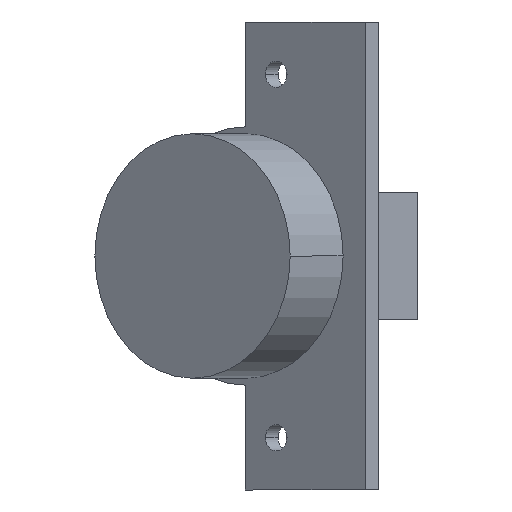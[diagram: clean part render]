
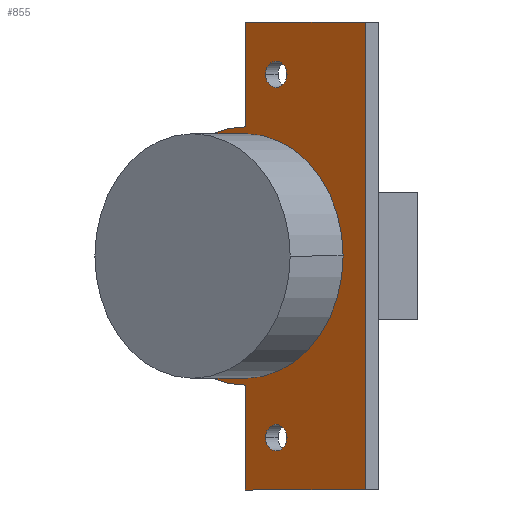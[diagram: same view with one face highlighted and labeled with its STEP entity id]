
A CAD part, front view. The second image highlights one B-rep face of the part: STEP entity #855.
In plain terms, the highlighted planar face has unit normal (-0.602, -0.799, 0).
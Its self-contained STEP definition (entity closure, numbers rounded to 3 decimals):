
#131 = CARTESIAN_POINT ( 'NONE',  ( 5.642, -3.31, 26. ) ) ;
#132 = DIRECTION ( 'NONE',  ( 0.602, 0.799, 0. ) ) ;
#133 = DIRECTION ( 'NONE',  ( -0.799, 0.602, 0. ) ) ;
#137 = CARTESIAN_POINT ( 'NONE',  ( 5.642, -3.31, -26. ) ) ;
#143 = DIRECTION ( 'NONE',  ( 0.602, 0.799, 0. ) ) ;
#144 = DIRECTION ( 'NONE',  ( -0.799, 0.602, 0. ) ) ;
#145 = CARTESIAN_POINT ( 'NONE',  ( 1.25, 0., 0. ) ) ;
#146 = DIRECTION ( 'NONE',  ( -0.602, -0.799, 0. ) ) ;
#147 = DIRECTION ( 'NONE',  ( -0.799, 0.602, 0. ) ) ;
#198 = CARTESIAN_POINT ( 'NONE',  ( 1.25, 0., 33.5 ) ) ;
#206 = DIRECTION ( 'NONE',  ( 0.799, -0.602, 0. ) ) ;
#220 = CARTESIAN_POINT ( 'NONE',  ( 1.25, 0., 0. ) ) ;
#227 = CARTESIAN_POINT ( 'NONE',  ( 1.25, 0., -33.5 ) ) ;
#230 = DIRECTION ( 'NONE',  ( 0.602, 0.799, 0. ) ) ;
#231 = DIRECTION ( 'NONE',  ( -0.799, 0.602, 0. ) ) ;
#232 = CARTESIAN_POINT ( 'NONE',  ( 18.421, -12.939, 33.5 ) ) ;
#233 = DIRECTION ( 'NONE',  ( 0., 0., 1. ) ) ;
#234 = CARTESIAN_POINT ( 'NONE',  ( 18.421, -12.939, -33.5 ) ) ;
#235 = DIRECTION ( 'NONE',  ( 0., 0., -1. ) ) ;
#236 = CARTESIAN_POINT ( 'NONE',  ( 1.25, 0., 18.5 ) ) ;
#237 = CARTESIAN_POINT ( 'NONE',  ( 5.642, -3.31, 26. ) ) ;
#238 = DIRECTION ( 'NONE',  ( -0.799, 0.602, 0. ) ) ;
#239 = CARTESIAN_POINT ( 'NONE',  ( 1.25, 0., 0. ) ) ;
#240 = DIRECTION ( 'NONE',  ( 0., 0., 1. ) ) ;
#241 = CARTESIAN_POINT ( 'NONE',  ( 5.642, -3.31, -26. ) ) ;
#242 = DIRECTION ( 'NONE',  ( -0.602, -0.799, 0. ) ) ;
#243 = DIRECTION ( 'NONE',  ( -0.799, 0.602, 0. ) ) ;
#245 = DIRECTION ( 'NONE',  ( 0.602, 0.799, 0. ) ) ;
#246 = DIRECTION ( 'NONE',  ( -0.799, 0.602, 0. ) ) ;
#248 = DIRECTION ( 'NONE',  ( 0.602, 0.799, 0. ) ) ;
#249 = DIRECTION ( 'NONE',  ( -0.799, 0.602, 0. ) ) ;
#268 = CARTESIAN_POINT ( 'NONE',  ( 1.25, 0., -18.5 ) ) ;
#291 = CARTESIAN_POINT ( 'NONE',  ( -12.726, 10.532, 0. ) ) ;
#294 = CARTESIAN_POINT ( 'NONE',  ( 15.226, -10.532, 0. ) ) ;
#295 = CARTESIAN_POINT ( 'NONE',  ( 7.16, -4.453, -26. ) ) ;
#317 = CARTESIAN_POINT ( 'NONE',  ( 4.125, -2.167, 26. ) ) ;
#334 = CARTESIAN_POINT ( 'NONE',  ( 4.125, -2.167, -26. ) ) ;
#335 = CARTESIAN_POINT ( 'NONE',  ( 1.25, 0., -33.5 ) ) ;
#336 = CARTESIAN_POINT ( 'NONE',  ( 1.25, 0., 33.5 ) ) ;
#337 = CARTESIAN_POINT ( 'NONE',  ( 1.25, 0., 18.5 ) ) ;
#338 = CARTESIAN_POINT ( 'NONE',  ( 18.421, -12.939, -33.5 ) ) ;
#339 = CARTESIAN_POINT ( 'NONE',  ( 18.421, -12.939, 33.5 ) ) ;
#395 = PLANE ( 'NONE',  #715 ) ;
#398 = CARTESIAN_POINT ( 'NONE',  ( 1.25, 0., 0. ) ) ;
#403 = DIRECTION ( 'NONE',  ( 0.602, 0.799, 0. ) ) ;
#404 = DIRECTION ( 'NONE',  ( -0.799, 0.602, 0. ) ) ;
#534 = CARTESIAN_POINT ( 'NONE',  ( 7.16, -4.453, 26. ) ) ;
#622 = EDGE_CURVE ( 'NONE', #1504, #803, #1050, .T. ) ;
#626 = EDGE_CURVE ( 'NONE', #781, #820, #1056, .T. ) ;
#627 = EDGE_CURVE ( 'NONE', #780, #777, #1057, .T. ) ;
#653 = EDGE_CURVE ( 'NONE', #824, #827, #1101, .T. ) ;
#664 = EDGE_CURVE ( 'NONE', #760, #825, #1122, .T. ) ;
#665 = EDGE_CURVE ( 'NONE', #821, #760, #1121, .T. ) ;
#666 = EDGE_CURVE ( 'NONE', #827, #826, #1118, .T. ) ;
#667 = EDGE_CURVE ( 'NONE', #826, #821, #1114, .T. ) ;
#668 = EDGE_CURVE ( 'NONE', #825, #824, #1119, .T. ) ;
#669 = EDGE_CURVE ( 'NONE', #777, #780, #1129, .T. ) ;
#670 = EDGE_CURVE ( 'NONE', #803, #1504, #1131, .T. ) ;
#671 = EDGE_CURVE ( 'NONE', #820, #781, #1133, .T. ) ;
#681 = AXIS2_PLACEMENT_3D ( 'NONE', #131, #132, #133 ) ;
#683 = AXIS2_PLACEMENT_3D ( 'NONE', #137, #143, #144 ) ;
#690 = AXIS2_PLACEMENT_3D ( 'NONE', #145, #146, #147 ) ;
#697 = AXIS2_PLACEMENT_3D ( 'NONE', #241, #248, #249 ) ;
#700 = AXIS2_PLACEMENT_3D ( 'NONE', #237, #245, #246 ) ;
#702 = AXIS2_PLACEMENT_3D ( 'NONE', #220, #230, #231 ) ;
#704 = AXIS2_PLACEMENT_3D ( 'NONE', #239, #242, #243 ) ;
#715 = AXIS2_PLACEMENT_3D ( 'NONE', #398, #403, #404 ) ;
#760 = VERTEX_POINT ( 'NONE', #268 ) ;
#777 = VERTEX_POINT ( 'NONE', #291 ) ;
#780 = VERTEX_POINT ( 'NONE', #294 ) ;
#781 = VERTEX_POINT ( 'NONE', #295 ) ;
#803 = VERTEX_POINT ( 'NONE', #317 ) ;
#820 = VERTEX_POINT ( 'NONE', #334 ) ;
#821 = VERTEX_POINT ( 'NONE', #335 ) ;
#824 = VERTEX_POINT ( 'NONE', #336 ) ;
#825 = VERTEX_POINT ( 'NONE', #337 ) ;
#826 = VERTEX_POINT ( 'NONE', #338 ) ;
#827 = VERTEX_POINT ( 'NONE', #339 ) ;
#855 = ADVANCED_FACE ( 'NONE', ( #1167, #1170, #1172, #1174 ), #395, .F. ) ;
#1050 = CIRCLE ( 'NONE', #681, 1.9 ) ;
#1056 = CIRCLE ( 'NONE', #683, 1.9 ) ;
#1057 = CIRCLE ( 'NONE', #690, 17.5 ) ;
#1097 = VECTOR ( 'NONE', #206, 1000. ) ;
#1101 = LINE ( 'NONE', #198, #1097 ) ;
#1113 = VECTOR ( 'NONE', #233, 1000. ) ;
#1114 = LINE ( 'NONE', #234, #1125 ) ;
#1118 = LINE ( 'NONE', #232, #1123 ) ;
#1119 = LINE ( 'NONE', #236, #1126 ) ;
#1121 = LINE ( 'NONE', #227, #1113 ) ;
#1122 = CIRCLE ( 'NONE', #702, 18.5 ) ;
#1123 = VECTOR ( 'NONE', #235, 1000. ) ;
#1125 = VECTOR ( 'NONE', #238, 1000. ) ;
#1126 = VECTOR ( 'NONE', #240, 1000. ) ;
#1129 = CIRCLE ( 'NONE', #704, 17.5 ) ;
#1131 = CIRCLE ( 'NONE', #700, 1.9 ) ;
#1133 = CIRCLE ( 'NONE', #697, 1.9 ) ;
#1167 = FACE_OUTER_BOUND ( 'NONE', #1393, .T. ) ;
#1170 = FACE_BOUND ( 'NONE', #1386, .T. ) ;
#1172 = FACE_BOUND ( 'NONE', #1384, .T. ) ;
#1174 = FACE_BOUND ( 'NONE', #1383, .T. ) ;
#1348 = ORIENTED_EDGE ( 'NONE', *, *, #667, .F. ) ;
#1349 = ORIENTED_EDGE ( 'NONE', *, *, #666, .F. ) ;
#1350 = ORIENTED_EDGE ( 'NONE', *, *, #653, .F. ) ;
#1351 = ORIENTED_EDGE ( 'NONE', *, *, #668, .F. ) ;
#1352 = ORIENTED_EDGE ( 'NONE', *, *, #664, .F. ) ;
#1353 = ORIENTED_EDGE ( 'NONE', *, *, #665, .F. ) ;
#1354 = ORIENTED_EDGE ( 'NONE', *, *, #670, .T. ) ;
#1355 = ORIENTED_EDGE ( 'NONE', *, *, #622, .T. ) ;
#1356 = ORIENTED_EDGE ( 'NONE', *, *, #671, .T. ) ;
#1357 = ORIENTED_EDGE ( 'NONE', *, *, #626, .T. ) ;
#1360 = ORIENTED_EDGE ( 'NONE', *, *, #669, .F. ) ;
#1361 = ORIENTED_EDGE ( 'NONE', *, *, #627, .F. ) ;
#1383 = EDGE_LOOP ( 'NONE', ( #1360, #1361 ) ) ;
#1384 = EDGE_LOOP ( 'NONE', ( #1356, #1357 ) ) ;
#1386 = EDGE_LOOP ( 'NONE', ( #1354, #1355 ) ) ;
#1393 = EDGE_LOOP ( 'NONE', ( #1348, #1349, #1350, #1351, #1352, #1353 ) ) ;
#1504 = VERTEX_POINT ( 'NONE', #534 ) ;
